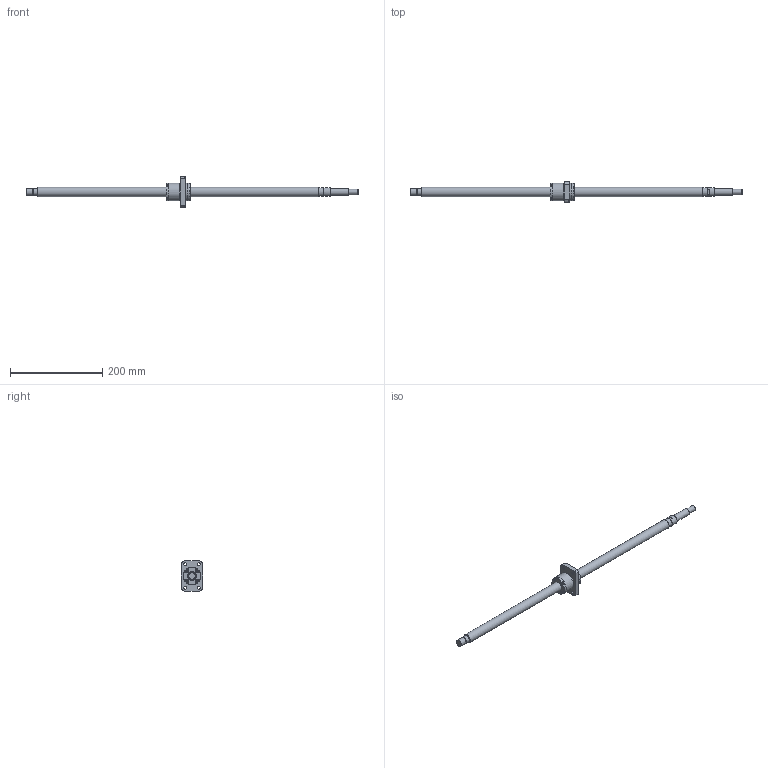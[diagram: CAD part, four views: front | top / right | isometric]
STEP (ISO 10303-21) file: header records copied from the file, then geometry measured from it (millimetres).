
FILE_DESCRIPTION(/* description */ ('STEP AP203'),/* implementation_level */ '2;1');
FILE_NAME(/* name */ 'BNK2020-3.6G0+720LC5Y(3310)',/* time_stamp */ '2024-07-09T09:40:09+02:00',/* author */ ('License CC BY-ND 4.0'),/* organization */ ('CADENAS'),/* preprocessor_version */ 'ST-DEVELOPER v19.3',/* originating_system */ 'PARTsolutions',/* authorisation */ ' ');
FILE_SCHEMA (('CONFIG_CONTROL_DESIGN'));
Length unit declared in the file: millimetre
Products named in the file (3): BNK2020-3.6G0+720LC5Y(3310); BNK 2020-3.6G0+720LC5Y Shaft; BNK 2020-3.6G0+720LC5Y0 Nut
Assembly tree (2 placements, depth 2):
  BNK2020-3.6G0+720LC5Y(3310)
    BNK 2020-3.6G0+720LC5Y Shaft
    BNK 2020-3.6G0+720LC5Y0 Nut
Bounding box: 720 x 46 x 66 mm (x, y, z)
Volume: 271219.1 mm3; surface area: 61931.5 mm2
Topology: 2 solids, 2 shells, 136 faces, 309 edges, 199 vertices
Faces by surface type: plane 75, cylinder 35, cone 20, torus 6
Full cylindrical faces by diameter (mm): 5.188 x1, 5.5 x4, 6.6 x4, 11 x4, 12 x1, 14.3 x1, 15 x3, 18 x1, 19.5 x1, 20 x2, 35.1 x1, 38 x2, 39 x2
Entity records: 3695 total; most frequent: CARTESIAN_POINT 671, DIRECTION 626, ORIENTED_EDGE 528, EDGE_CURVE 264, AXIS2_PLACEMENT_3D 247, FACE_BOUND 210, EDGE_LOOP 209, VERTEX_POINT 196
